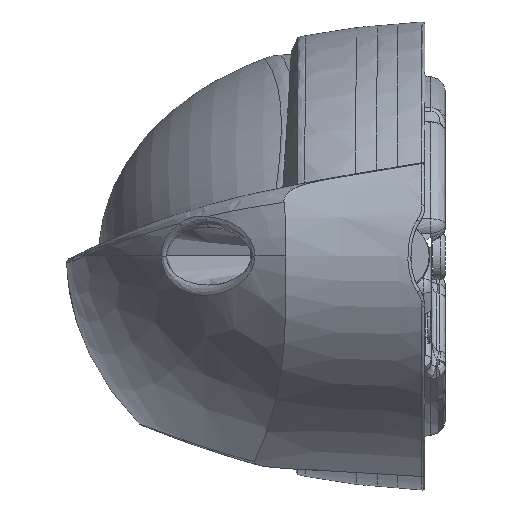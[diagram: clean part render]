
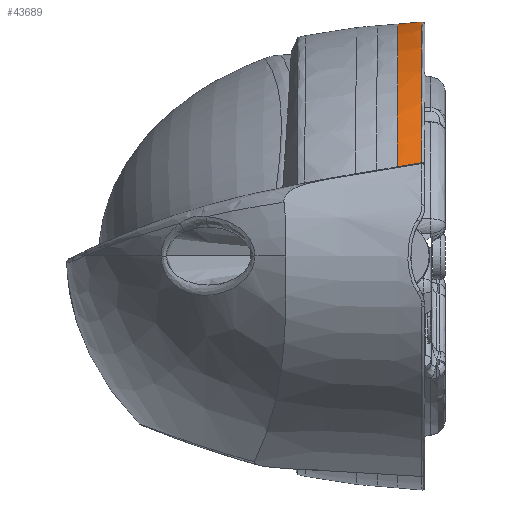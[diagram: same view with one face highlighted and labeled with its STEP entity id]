
A CAD part, left-side view. The second image highlights one B-rep face of the part: STEP entity #43689.
In plain terms, the highlighted free-form (B-spline) face has degree [3, 3] with [4, 16] control points.
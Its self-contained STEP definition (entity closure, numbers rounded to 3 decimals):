
#34357=CARTESIAN_POINT('',(0.,-25.892,82.16));
#34359=CARTESIAN_POINT('',(-131.15,-25.725,
31.605));
#34360=CARTESIAN_POINT('',(-129.4,-25.73,
34.021));
#34361=CARTESIAN_POINT('',(-125.449,-25.742,
38.822));
#34362=CARTESIAN_POINT('',(-118.314,-25.76,
45.689));
#34363=CARTESIAN_POINT('',(-109.978,-25.779,
52.176));
#34364=CARTESIAN_POINT('',(-100.585,-25.798,
58.162));
#34365=CARTESIAN_POINT('',(-90.225,-25.816,
63.589));
#34366=CARTESIAN_POINT('',(-78.999,-25.833,
68.404));
#34367=CARTESIAN_POINT('',(-67.016,-25.849,
72.56));
#34368=CARTESIAN_POINT('',(-54.392,-25.864,
76.017));
#34369=CARTESIAN_POINT('',(-41.249,-25.875,
78.742));
#34370=CARTESIAN_POINT('',(-27.714,-25.884,
80.707));
#34371=CARTESIAN_POINT('',(-13.92,-25.89,
81.895));
#34372=CARTESIAN_POINT('',(-4.639,-25.892,
82.16));
#34373=CARTESIAN_POINT('',(0.,-25.892,82.16));
#34375=CARTESIAN_POINT('',(-131.054,-34.411,
33.047));
#34376=CARTESIAN_POINT('',(-131.066,-33.435,
32.886));
#34377=CARTESIAN_POINT('',(-131.089,-31.492,
32.563));
#34378=CARTESIAN_POINT('',(-131.121,-28.597,
32.082));
#34379=CARTESIAN_POINT('',(-131.14,-26.681,
31.764));
#34380=CARTESIAN_POINT('',(-131.15,-25.725,
31.605));
#34382=DIRECTION('',(0.,-0.996,0.087));
#34383=VECTOR('',#34382,8.554);
#34384=CARTESIAN_POINT('',(0.,-25.892,82.16));
#34385=LINE('',#34384,#34383);
#40356=CARTESIAN_POINT('',(-131.15,-25.725,
31.605));
#40475=CARTESIAN_POINT('',(0.,-34.413,
82.905));
#40476=CARTESIAN_POINT('',(-8.608,-34.413,
82.905));
#40477=CARTESIAN_POINT('',(-25.327,-34.412,
82.033));
#40478=CARTESIAN_POINT('',(-49.612,-34.411,
78.159));
#40479=CARTESIAN_POINT('',(-69.951,-34.41,
72.644));
#40480=CARTESIAN_POINT('',(-87.443,-34.409,
65.918));
#40481=CARTESIAN_POINT('',(-102.127,-34.409,
58.333));
#40482=CARTESIAN_POINT('',(-114.247,-34.409,
50.157));
#40483=CARTESIAN_POINT('',(-123.921,-34.41,
41.677));
#40484=CARTESIAN_POINT('',(-128.922,-34.41,
35.893));
#40485=CARTESIAN_POINT('',(-131.054,-34.411,
33.047));
#40979=VERTEX_POINT('',#34357);
#41265=VERTEX_POINT('',#40356);
#41327=VERTEX_POINT('',#40475);
#41328=VERTEX_POINT('',#40485);
#43616=CARTESIAN_POINT('',(-132.022,-25.635,
30.358));
#43617=CARTESIAN_POINT('',(-131.779,-25.636,
30.71));
#43618=CARTESIAN_POINT('',(-129.777,-25.642,
33.55));
#43619=CARTESIAN_POINT('',(-125.504,-25.655,
38.759));
#43620=CARTESIAN_POINT('',(-118.307,-25.674,
45.684));
#43621=CARTESIAN_POINT('',(-109.972,-25.693,
52.171));
#43622=CARTESIAN_POINT('',(-100.578,-25.712,
58.157));
#43623=CARTESIAN_POINT('',(-90.219,-25.73,
63.583));
#43624=CARTESIAN_POINT('',(-78.994,-25.748,
68.397));
#43625=CARTESIAN_POINT('',(-67.011,-25.764,
72.553));
#43626=CARTESIAN_POINT('',(-54.388,-25.778,
76.01));
#43627=CARTESIAN_POINT('',(-41.246,-25.79,
78.734));
#43628=CARTESIAN_POINT('',(-27.712,-25.799,
80.7));
#43629=CARTESIAN_POINT('',(-13.476,-25.805,
81.926));
#43630=CARTESIAN_POINT('',(-3.744,-25.807,
82.176));
#43631=CARTESIAN_POINT('',(1.341,-25.806,
82.148));
#43632=CARTESIAN_POINT('',(-132.273,-28.593,
30.46));
#43633=CARTESIAN_POINT('',(-132.029,-28.593,
30.813));
#43634=CARTESIAN_POINT('',(-130.025,-28.598,
33.663));
#43635=CARTESIAN_POINT('',(-125.747,-28.608,
38.888));
#43636=CARTESIAN_POINT('',(-118.542,-28.623,
45.835));
#43637=CARTESIAN_POINT('',(-110.195,-28.638,
52.342));
#43638=CARTESIAN_POINT('',(-100.788,-28.653,
58.346));
#43639=CARTESIAN_POINT('',(-90.412,-28.667,
63.788));
#43640=CARTESIAN_POINT('',(-79.168,-28.679,
68.616));
#43641=CARTESIAN_POINT('',(-67.163,-28.691,
72.783));
#43642=CARTESIAN_POINT('',(-54.515,-28.7,
76.249));
#43643=CARTESIAN_POINT('',(-41.345,-28.707,
78.981));
#43644=CARTESIAN_POINT('',(-27.781,-28.712,
80.951));
#43645=CARTESIAN_POINT('',(-13.51,-28.713,
82.179));
#43646=CARTESIAN_POINT('',(-3.754,-28.711,
82.431));
#43647=CARTESIAN_POINT('',(1.345,-28.709,
82.402));
#43648=CARTESIAN_POINT('',(-132.524,-31.541,
30.562));
#43649=CARTESIAN_POINT('',(-132.28,-31.541,
30.916));
#43650=CARTESIAN_POINT('',(-130.274,-31.544,
33.775));
#43651=CARTESIAN_POINT('',(-125.991,-31.548,
39.016));
#43652=CARTESIAN_POINT('',(-118.777,-31.554,
45.985));
#43653=CARTESIAN_POINT('',(-110.419,-31.561,
52.511));
#43654=CARTESIAN_POINT('',(-100.998,-31.568,
58.532));
#43655=CARTESIAN_POINT('',(-90.605,-31.574,
63.99));
#43656=CARTESIAN_POINT('',(-79.341,-31.581,
68.831));
#43657=CARTESIAN_POINT('',(-67.315,-31.587,
73.01));
#43658=CARTESIAN_POINT('',(-54.642,-31.593,
76.486));
#43659=CARTESIAN_POINT('',(-41.444,-31.599,
79.225));
#43660=CARTESIAN_POINT('',(-27.85,-31.604,
81.2));
#43661=CARTESIAN_POINT('',(-13.545,-31.609,
82.432));
#43662=CARTESIAN_POINT('',(-3.764,-31.611,
82.684));
#43663=CARTESIAN_POINT('',(1.349,-31.612,
82.656));
#43664=CARTESIAN_POINT('',(-132.774,-34.497,
30.664));
#43665=CARTESIAN_POINT('',(-132.531,-34.497,
31.019));
#43666=CARTESIAN_POINT('',(-130.522,-34.497,
33.888));
#43667=CARTESIAN_POINT('',(-126.235,-34.498,
39.145));
#43668=CARTESIAN_POINT('',(-119.012,-34.5,
46.135));
#43669=CARTESIAN_POINT('',(-110.643,-34.501,
52.681));
#43670=CARTESIAN_POINT('',(-101.208,-34.503,
58.72));
#43671=CARTESIAN_POINT('',(-90.799,-34.505,
64.194));
#43672=CARTESIAN_POINT('',(-79.515,-34.506,
69.049));
#43673=CARTESIAN_POINT('',(-67.467,-34.508,
73.239));
#43674=CARTESIAN_POINT('',(-54.769,-34.509,
76.724));
#43675=CARTESIAN_POINT('',(-41.544,-34.511,
79.47));
#43676=CARTESIAN_POINT('',(-27.919,-34.512,
81.451));
#43677=CARTESIAN_POINT('',(-13.58,-34.514,
82.686));
#43678=CARTESIAN_POINT('',(-3.774,-34.515,
82.939));
#43679=CARTESIAN_POINT('',(1.352,-34.515,
82.91));
#43680=B_SPLINE_SURFACE_WITH_KNOTS('',3,3,((#43616,#43617,#43618,#43619,#43620,
#43621,#43622,#43623,#43624,#43625,#43626,#43627,#43628,#43629,#43630,#43631),(
#43632,#43633,#43634,#43635,#43636,#43637,#43638,#43639,#43640,#43641,#43642,
#43643,#43644,#43645,#43646,#43647),(#43648,#43649,#43650,#43651,#43652,#43653,
#43654,#43655,#43656,#43657,#43658,#43659,#43660,#43661,#43662,#43663),(#43664,
#43665,#43666,#43667,#43668,#43669,#43670,#43671,#43672,#43673,#43674,#43675,
#43676,#43677,#43678,#43679)),.UNSPECIFIED.,.F.,.F.,.F.,(4,4),(4,1,1,1,1,1,1,1,
1,1,1,1,1,4),(0.786,0.978),(0.241,0.25,
0.313,0.375,0.438,0.5,0.563,0.625,0.688,0.75,0.813,
0.875,0.938,1.006),.UNSPECIFIED.);
#43682=ORIENTED_EDGE('',*,*,#43681,.T.);
#43684=ORIENTED_EDGE('',*,*,#43683,.T.);
#43685=ORIENTED_EDGE('',*,*,#43611,.T.);
#43686=ORIENTED_EDGE('',*,*,#43261,.T.);
#43687=EDGE_LOOP('',(#43682,#43684,#43685,#43686));
#43688=FACE_OUTER_BOUND('',#43687,.F.);
#43689=ADVANCED_FACE('',(#43688),#43680,.T.);
#34374=B_SPLINE_CURVE_WITH_KNOTS('',3,(#34359,#34360,#34361,#34362,#34363,
#34364,#34365,#34366,#34367,#34368,#34369,#34370,#34371,#34372,#34373),
.UNSPECIFIED.,.F.,.F.,(4,1,1,1,1,1,1,1,1,1,1,1,4),(0.,0.081,
0.165,0.248,0.332,0.415,
0.499,0.582,0.666,0.749,
0.833,0.916,1.),.UNSPECIFIED.);
#34381=B_SPLINE_CURVE_WITH_KNOTS('',3,(#34375,#34376,#34377,#34378,#34379,
#34380),.UNSPECIFIED.,.F.,.F.,(4,1,1,4),(0.,0.333,
0.667,1.),.UNSPECIFIED.);
#40486=B_SPLINE_CURVE_WITH_KNOTS('',3,(#40475,#40476,#40477,#40478,#40479,
#40480,#40481,#40482,#40483,#40484,#40485),.UNSPECIFIED.,.F.,.F.,(4,1,1,1,1,1,1,
1,4),(0.,0.125,0.25,0.375,0.5,0.625,0.75,0.875,1.),
.UNSPECIFIED.);
#43261=EDGE_CURVE('',#40979,#41327,#34385,.T.);
#43611=EDGE_CURVE('',#41265,#40979,#34374,.T.);
#43681=EDGE_CURVE('',#41327,#41328,#40486,.T.);
#43683=EDGE_CURVE('',#41328,#41265,#34381,.T.);
